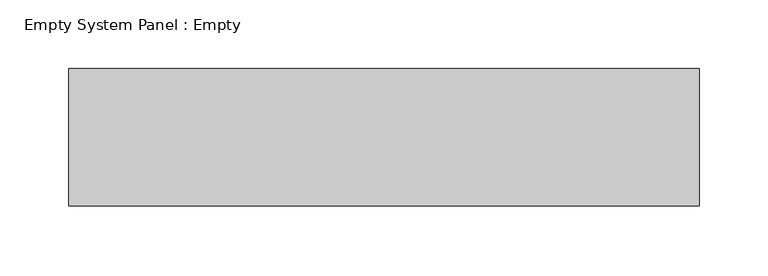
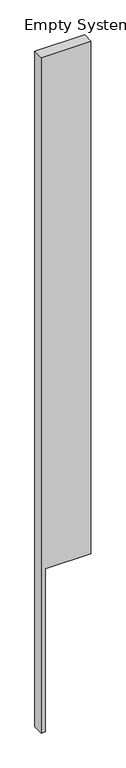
"""IFC4 building model written with IfcOpenShell, lengths in millimetres: plate geometry, Empty System Panel : Empty."""

import ifcopenshell
import ifcopenshell.guid

model = None  # the IFC model being written
_history = None  # IfcOwnerHistory: only IFC2X3 demands one
_inside = {}  # id of a spatial element -> (the spatial element, [elements in it])
_under = {}  # id of a project, library or spatial element -> (it, [spatial elements below it])
_declared = {}  # id of a project -> (the project, [libraries it declares])
_typed = {}  # id of a type object -> (the type object, [elements of that type])
_made_of = {}  # id of a material, layer set ... -> (it, [elements and type objects made of it])


def new_model(schema):
    """Start an empty IFC model of exactly this schema.

    Asked for "IFC4X3", IfcOpenShell would pick the latest addendum, in which some entities
    have other attributes; the version numbers below select the first issue.
    IFC2X3 requires an IfcOwnerHistory on every rooted entity: one is made here for all.
    """
    global model, _history
    if schema == "IFC4X3":
        model = ifcopenshell.file(schema_version=(4, 3, 0, 0))
    else:
        model = ifcopenshell.file(schema=schema)
    _inside.clear()
    _under.clear()
    _declared.clear()
    _typed.clear()
    _made_of.clear()
    _history = None
    if model.schema == "IFC2X3":
        org = make("IfcOrganization", Name="unknown")
        user = make(
            "IfcPersonAndOrganization",
            ThePerson=make("IfcPerson", FamilyName="unknown"),
            TheOrganization=org,
        )
        app = make(
            "IfcApplication",
            ApplicationDeveloper=org,
            Version="unknown",
            ApplicationFullName="unknown",
            ApplicationIdentifier="unknown",
        )
        _history = make(
            "IfcOwnerHistory",
            OwningUser=user,
            OwningApplication=app,
            ChangeAction="ADDED",
            CreationDate=0,
        )
    return model


def make(cls, **values):
    """One entity of the class cls with the attributes given. An attribute that is None is left unset."""
    return model.create_entity(
        cls, **{name: value for name, value in values.items() if value is not None}
    )


def rooted(cls, **values):
    """An entity with a GlobalId (a new one), such as an element, a storey or a relation."""
    return make(cls, GlobalId=ifcopenshell.guid.new(), OwnerHistory=_history, **values)


def si_unit(unit_type, name, prefix=None):
    """IfcSIUnit, for example si_unit("LENGTHUNIT", "METRE", prefix="MILLI")."""
    return make("IfcSIUnit", UnitType=unit_type, Prefix=prefix, Name=name)


def assignment(units):
    """IfcUnitAssignment: the units of a project."""
    return None if units is None else make("IfcUnitAssignment", Units=units)


def point(xyz):
    """IfcCartesianPoint."""
    return None if xyz is None else make("IfcCartesianPoint", Coordinates=xyz)


def direction(xyz):
    """IfcDirection."""
    return None if xyz is None else make("IfcDirection", DirectionRatios=xyz)


def frame(location, z_axis=None, x_axis=None):
    """IfcAxis2Placement3D, a coordinate frame: its origin and axes. An axis left out is left unset."""
    return make(
        "IfcAxis2Placement3D",
        Location=point(location),
        Axis=direction(z_axis),
        RefDirection=direction(x_axis),
    )


def origin():
    """The frame at (0, 0, 0) with its axes left unset."""
    return frame((0.0, 0.0, 0.0))


def place(relative_to, where):
    """IfcLocalPlacement: puts the frame where relative to a parent placement (None: the world)."""
    return make(
        "IfcLocalPlacement", PlacementRelTo=relative_to, RelativePlacement=where
    )


def context(
    kind, dimensions, precision=None, world=None, true_north=None, identifier=None
):
    """IfcGeometricRepresentationContext, for example the 3D "Model" context."""
    return make(
        "IfcGeometricRepresentationContext",
        ContextIdentifier=identifier,
        ContextType=kind,
        CoordinateSpaceDimension=dimensions,
        Precision=precision,
        WorldCoordinateSystem=world,
        TrueNorth=true_north,
    )


def project(units=None, contexts=None):
    """IfcProject with its units and contexts."""
    return rooted(
        "IfcProject",
        Name="project",
        RepresentationContexts=contexts,
        UnitsInContext=assignment(units),
    )


def spatial(cls, under=None, at=None, **own):
    """A site, building, storey or space (cls), placed at a placement, below another one or the project."""
    s = rooted(cls, ObjectPlacement=at, **own)
    if under is not None:
        _under.setdefault(under.id(), (under, []))[1].append(s)
    return s


def polyline(points):
    """IfcPolyline through the points."""
    return make("IfcPolyline", Points=[point(p) for p in points])


def outline(outer, holes=None, kind="AREA"):
    """IfcArbitraryClosedProfileDef: a profile drawn as a closed curve; with holes, ...WithVoids."""
    if holes is None:
        return make("IfcArbitraryClosedProfileDef", ProfileType=kind, OuterCurve=outer)
    return make(
        "IfcArbitraryProfileDefWithVoids",
        ProfileType=kind,
        OuterCurve=outer,
        InnerCurves=holes,
    )


def extrude(swept, where, along, depth):
    """IfcExtrudedAreaSolid: the profile swept, set in the frame where, extruded along a direction by depth."""
    return make(
        "IfcExtrudedAreaSolid",
        SweptArea=swept,
        Position=where,
        ExtrudedDirection=direction(along),
        Depth=depth,
    )


def shape(context_of_items, identifier, shape_type, items):
    """IfcShapeRepresentation: the items that make up one representation, for example the "Body"."""
    return make(
        "IfcShapeRepresentation",
        ContextOfItems=context_of_items,
        RepresentationIdentifier=identifier,
        RepresentationType=shape_type,
        Items=items,
    )


def source(mapping_origin, context_of_items, identifier, shape_type, items):
    """IfcRepresentationMap: a shape defined once, which mapped items show again and again."""
    return make(
        "IfcRepresentationMap",
        MappingOrigin=mapping_origin,
        MappedRepresentation=shape(context_of_items, identifier, shape_type, items),
    )


def transform(
    local_origin,
    x_axis=None,
    y_axis=None,
    z_axis=None,
    scale=None,
    scale2=None,
    scale3=None,
    uniform=True,
):
    """IfcCartesianTransformationOperator3D, or its non-uniform kind. x_axis, y_axis, z_axis: its Axis1, 2, 3."""
    if uniform:
        return make(
            "IfcCartesianTransformationOperator3D",
            Axis1=direction(x_axis),
            Axis2=direction(y_axis),
            LocalOrigin=point(local_origin),
            Scale=scale,
            Axis3=direction(z_axis),
        )
    return make(
        "IfcCartesianTransformationOperator3DnonUniform",
        Axis1=direction(x_axis),
        Axis2=direction(y_axis),
        LocalOrigin=point(local_origin),
        Scale=scale,
        Axis3=direction(z_axis),
        Scale2=scale2,
        Scale3=scale3,
    )


def mapped(mapping_source, mapping_target):
    """IfcMappedItem: shows the shape of a source again, moved by a transform."""
    return make(
        "IfcMappedItem", MappingSource=mapping_source, MappingTarget=mapping_target
    )


def made_of(thing, what):
    """Note that an element or type object is made of a material, layer set ...; save() writes the relation."""
    if what is not None:
        _made_of.setdefault(what.id(), (what, []))[1].append(thing)
    return thing


def element(
    cls,
    number,
    at=None,
    inside=None,
    cuts=None,
    type_object=None,
    material=None,
    context=None,
    identifier="Body",
    shape_type=None,
    held_by="IfcProductDefinitionShape",
    body=None,
    shapes=None,
    **own,
):
    """One element of the class cls, such as IfcWall. Its Tag is "e" and its number.

    at: its placement. inside: the storey or other place that contains it. cuts: it is an
    opening in that element (IfcRelVoidsElement). A single representation is given by context,
    identifier, shape_type and body (its items); several are given by shapes. held_by: the class
    of the entity that holds the representations. save() writes the other relations.
    """
    e = rooted(cls, Tag="e%d" % number, ObjectPlacement=at, **own)
    if body is not None:
        shapes = [shape(context, identifier, shape_type, body)]
    if shapes is not None:
        e.Representation = make(held_by, Representations=shapes)
    if inside is not None:
        _inside.setdefault(inside.id(), (inside, []))[1].append(e)
    if cuts is not None:
        rooted(
            "IfcRelVoidsElement", RelatingBuildingElement=cuts, RelatedOpeningElement=e
        )
    if type_object is not None:
        _typed.setdefault(type_object.id(), (type_object, []))[1].append(e)
    return made_of(e, material)


def aggregate(whole, parts):
    """IfcRelAggregates: a whole, such as a stair, and the parts it consists of."""
    return rooted("IfcRelAggregates", RelatingObject=whole, RelatedObjects=parts)


def save(model, path):
    """Write the relations noted so far, then the file.

    IfcRelAggregates (storeys below a building ...), IfcRelContainedInSpatialStructure (elements
    in a storey), IfcRelDefinesByType, IfcRelAssociatesMaterial and IfcRelDeclares: one each for
    every whole, place, type object, material and project.
    """
    for whole, parts in _under.values():
        aggregate(whole, parts)
    for where, things in _inside.values():
        rooted(
            "IfcRelContainedInSpatialStructure",
            RelatedElements=things,
            RelatingStructure=where,
        )
    for kind, things in _typed.values():
        rooted("IfcRelDefinesByType", RelatedObjects=things, RelatingType=kind)
    for what, things in _made_of.values():
        rooted("IfcRelAssociatesMaterial", RelatedObjects=things, RelatingMaterial=what)
    for by, libraries in _declared.values():
        rooted("IfcRelDeclares", RelatingContext=by, RelatedDefinitions=libraries)
    model.write(path)


def empty_system_panel_empty_96c9f712(model_context):
    return source(origin(), model_context, "Body", "SweptSolid", [
        extrude(outline(polyline([(0.0, -229.6046705), (0.0, -193.5129205), (1592.6201878, -193.5129205), (1592.6201878, 229.6046705), (6608.109795, 229.6046705), (6608.109795, -229.6046705), (0.0, -229.6046705)])), frame((0.0, -50.0, 0.0), z_axis=(0.0, 1.0, 0.0), x_axis=(0.0, 0.0, 1.0)), (0.0, 0.0, 1.0), 100.0),
    ])


if __name__ == "__main__":
    model = new_model("IFC4")
    model_context = context("Model", 3, world=origin())
    ifc_project = project(units=[si_unit("LENGTHUNIT", "METRE", prefix="MILLI")], contexts=[model_context])
    site = spatial("IfcSite", under=ifc_project)
    building = spatial("IfcBuilding", under=site)
    placement = place(None, origin())
    empty_system_panel_empty_shape = empty_system_panel_empty_96c9f712(model_context)
    element("IfcPlate", 1, ObjectType="Empty System Panel : Empty", at=placement, inside=building, context=model_context, shape_type="MappedRepresentation", body=[
        mapped(empty_system_panel_empty_shape, transform((0.0, 0.0, 0.0), x_axis=(1.0, 0.0, 0.0), y_axis=(0.0, 1.0, 0.0), z_axis=(0.0, 0.0, 1.0))),
    ])
    save(model, "model.ifc")
